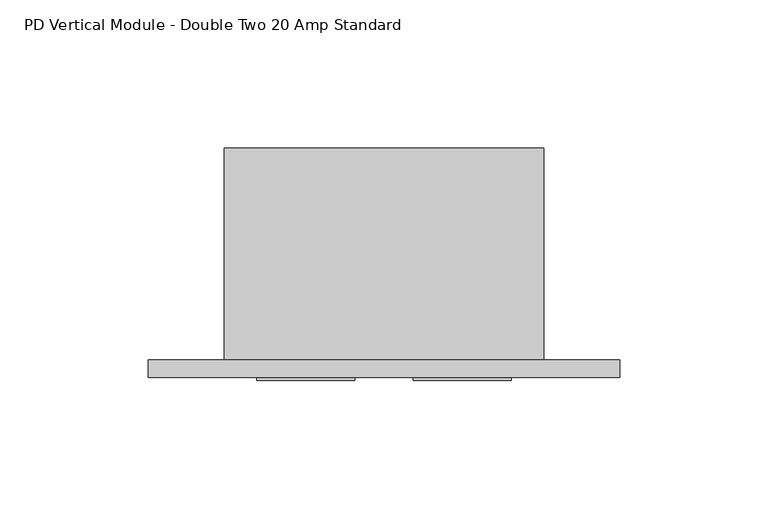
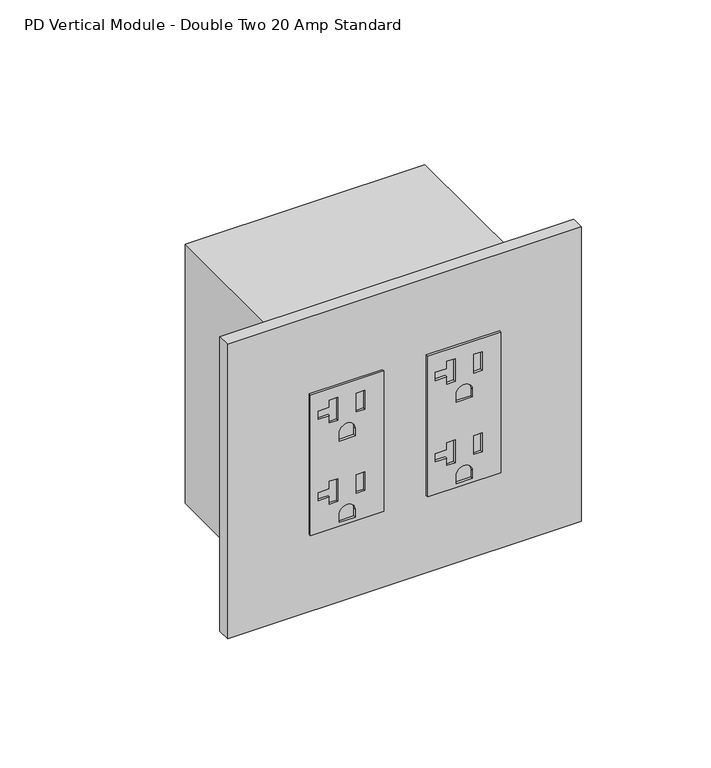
"""IFC4 building model written with IfcOpenShell, lengths in millimetres: proxy geometry, Electrical-Teknion-EPDMD_Vertical_Power_Data_Double-R2019 : PD Vertical Module - Double Two 20 Amp Standard."""

from ifc_helpers import new_model, si_unit, point, frame, frame_2d, origin, place, context, project, spatial, polyline, circle_curve, trimmed, segment, composite_curve, outline, extrude, source, transform, mapped, element, save


def pd_vertical_module_double_two_20_amp_standard_2ea52ada(model_context):
    return source(origin(), model_context, "Body", "SweptSolid", [
        extrude(outline(polyline([(414.4772, 96.9264), (414.4772, 63.9318), (347.5228, 63.9318), (347.5228, 96.9264), (414.4772, 96.9264)]), holes=[polyline([(366.8776, 72.4408), (370.3574, 72.4408), (370.3574, 76.2762), (359.537, 76.2762), (359.537, 72.4408), (363.0168, 72.4408), (363.0168, 67.3354), (366.8776, 67.3354), (366.8776, 72.4408)]), polyline([(369.3795, 88.4428), (360.5149, 88.4428), (360.5149, 84.6074), (369.3795, 84.6074), (369.3795, 88.4428)]), composite_curve([segment(polyline([(352.9838, 84.0613), (349.3516, 84.0613), (349.3516, 76.7969), (352.9838, 76.7969)]), True, "CONTINUOUS"), segment(trimmed(circle_curve(frame_2d((352.9838, 80.4291)), 3.6322), [point((352.9838, 76.7969))], [point((352.9838, 84.0613))], True, "CARTESIAN"), True, "CONTINUOUS")], self_intersect=False), polyline([(405.6126, 72.4408), (409.0924, 72.4408), (409.0924, 76.2762), (398.272, 76.2762), (398.272, 72.4408), (401.7518, 72.4408), (401.7518, 67.3354), (405.6126, 67.3354), (405.6126, 72.4408)]), polyline([(408.1145, 88.4428), (399.2499, 88.4428), (399.2499, 84.6074), (408.1145, 84.6074), (408.1145, 88.4428)]), composite_curve([segment(polyline([(391.7188, 84.0613), (388.0866, 84.0613), (388.0866, 76.7969), (391.7188, 76.7969)]), True, "CONTINUOUS"), segment(trimmed(circle_curve(frame_2d((391.7188, 80.4291)), 3.6322), [point((391.7188, 76.7969))], [point((391.7188, 84.0613))], True, "CARTESIAN"), True, "CONTINUOUS")], self_intersect=False)]), frame((0.0, -6.9294746, 0.0), z_axis=(0.0, 1.0, 0.0), x_axis=(0.0, 0.0, 1.0)), (0.0, 0.0, 1.0), 1.0366746),
        extrude(outline(polyline([(414.4772, 44.0944), (414.4772, 11.0998), (347.5228, 11.0998), (347.5228, 44.0944), (414.4772, 44.0944)]), holes=[polyline([(409.0924, 23.4442), (398.272, 23.4442), (398.272, 19.6088), (401.7518, 19.6088), (401.7518, 14.5034), (405.6126, 14.5034), (405.6126, 19.6088), (409.0924, 19.6088), (409.0924, 23.4442)]), polyline([(408.1145, 35.6108), (399.2499, 35.6108), (399.2499, 31.7754), (408.1145, 31.7754), (408.1145, 35.6108)]), composite_curve([segment(polyline([(388.0866, 31.2293), (388.0866, 23.9649), (391.7188, 23.9649)]), True, "CONTINUOUS"), segment(trimmed(circle_curve(frame_2d((391.7188, 27.5971)), 3.6322), [point((391.7188, 23.9649))], [point((391.7188, 31.2293))], True, "CARTESIAN"), True, "CONTINUOUS"), segment(polyline([(391.7188, 31.2293), (388.0866, 31.2293)]), True, "CONTINUOUS")], self_intersect=False), polyline([(370.3574, 23.4442), (359.537, 23.4442), (359.537, 19.6088), (363.0168, 19.6088), (363.0168, 14.5034), (366.8776, 14.5034), (366.8776, 19.6088), (370.3574, 19.6088), (370.3574, 23.4442)]), polyline([(369.3795, 35.6108), (360.5149, 35.6108), (360.5149, 31.7754), (369.3795, 31.7754), (369.3795, 35.6108)]), composite_curve([segment(polyline([(349.3516, 31.2293), (349.3516, 23.9649), (352.9838, 23.9649)]), True, "CONTINUOUS"), segment(trimmed(circle_curve(frame_2d((352.9838, 27.5971)), 3.6322), [point((352.9838, 23.9649))], [point((352.9838, 31.2293))], True, "CARTESIAN"), True, "CONTINUOUS"), segment(polyline([(352.9838, 31.2293), (349.3516, 31.2293)]), True, "CONTINUOUS")], self_intersect=False)]), frame((0.0, -6.9294746, 0.0), z_axis=(0.0, 1.0, 0.0), x_axis=(0.0, 0.0, 1.0)), (0.0, 0.0, 1.0), 1.0366746),
        extrude(outline(polyline([(-25.6794, 0.0), (133.7056, 0.0), (133.7056, -5.8928), (-25.6794, -5.8928), (-25.6794, 0.0)])), frame((0.0, 0.0, 310.7302229), z_axis=(0.0, 0.0, 1.0), x_axis=(1.0, 0.0, 0.0)), (0.0, 0.0, 1.0), 140.3604),
        extrude(outline(polyline([(108.0262, 0.0), (0.0, 0.0), (0.0, 71.7296), (108.0262, 71.7296), (108.0262, 0.0)])), frame((0.0, 0.0, 319.1630229), z_axis=(0.0, 0.0, 1.0), x_axis=(1.0, 0.0, 0.0)), (0.0, 0.0, 1.0), 123.4948),
    ])


if __name__ == "__main__":
    model = new_model("IFC4")
    model_context = context("Model", 3, world=origin())
    ifc_project = project(units=[si_unit("LENGTHUNIT", "METRE", prefix="MILLI")], contexts=[model_context])
    site = spatial("IfcSite", under=ifc_project)
    building = spatial("IfcBuilding", under=site)
    placement = place(None, origin())
    pd_vertical_module_double_two_20_amp_standard_shape = pd_vertical_module_double_two_20_amp_standard_2ea52ada(model_context)
    element("IfcBuildingElementProxy", 1, Name="Electrical-Teknion-EPDMD_Vertical_Power_Data_Double-R2019 : PD Vertical Module - Double Two 20 Amp Standard", ObjectType="Electrical-Teknion-EPDMD_Vertical_Power_Data_Double-R2019 : PD Vertical Module - Double Two 20 Amp Standard", at=placement, inside=building, context=model_context, shape_type="MappedRepresentation", body=[
        mapped(pd_vertical_module_double_two_20_amp_standard_shape, transform((0.0, 0.0, 0.0), x_axis=(1.0, 0.0, 0.0), y_axis=(0.0, 1.0, 0.0), z_axis=(0.0, 0.0, 1.0))),
    ])
    save(model, "model.ifc")
